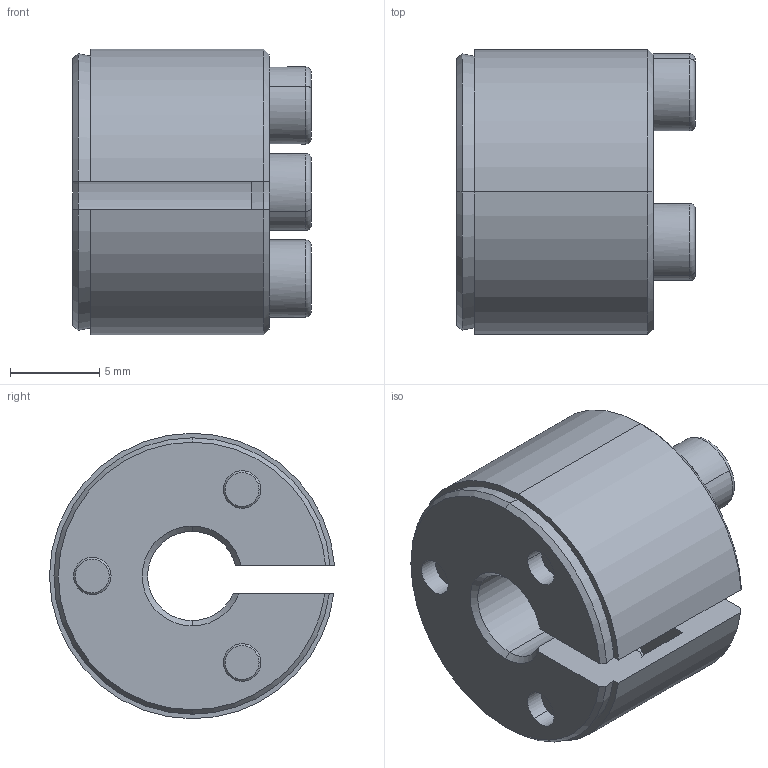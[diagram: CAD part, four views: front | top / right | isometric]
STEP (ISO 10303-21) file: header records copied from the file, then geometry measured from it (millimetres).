
FILE_DESCRIPTION (( 'STEP AP214' ), '1' );
FILE_NAME ('SAPL-E-05x16.STEP', '2024-07-12T01:51:09', ( '决扁浅何厘' ), ( '' ), 'SwSTEP 2.0', 'SolidWorks 2024', '' );
FILE_SCHEMA (( 'AUTOMOTIVE_DESIGN' ));
Length unit declared in the file: millimetre
Products named in the file (1): SAPL-E-05x16
Bounding box: 13.36 x 15.98 x 16 mm (x, y, z)
Volume: 1633.5 mm3; surface area: 1970.3 mm2
Topology: 1 solids, 1 shells, 123 faces, 315 edges, 200 vertices
Faces by surface type: plane 47, cylinder 40, cone 30, torus 6
Entity records: 3905 total; most frequent: CARTESIAN_POINT 771, DIRECTION 702, ORIENTED_EDGE 630, EDGE_CURVE 315, AXIS2_PLACEMENT_3D 285, VERTEX_POINT 200, CIRCLE 161, EDGE_LOOP 141
